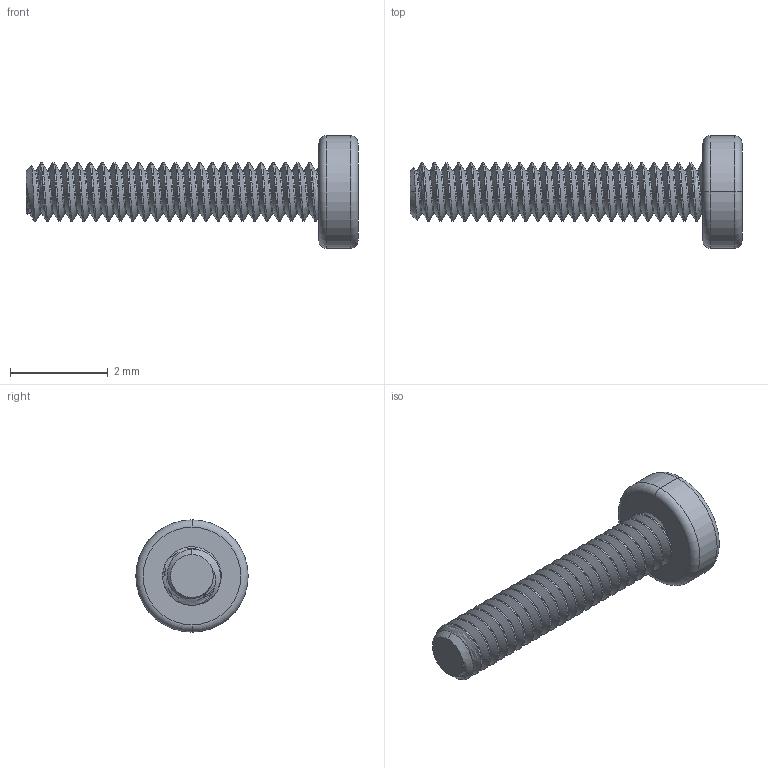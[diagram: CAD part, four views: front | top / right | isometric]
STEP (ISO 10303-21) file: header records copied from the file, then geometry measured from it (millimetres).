
FILE_DESCRIPTION (( 'STEP AP203' ), '1' );
FILE_NAME ('M12-60-M-SS-PT-USMICROSCREW.STEP', '2014-12-30T07:24:07', ( 'Chromium' ), ( 'Microsoft' ), 'SwSTEP 2.0', 'SolidWorks 2014', '' );
FILE_SCHEMA (( 'CONFIG_CONTROL_DESIGN' ));
Length unit declared in the file: millimetre
Products named in the file (1): M12-60-M-SS-PT-USMICROSCREW
Bounding box: 6.8 x 2.3 x 2.3 mm (x, y, z)
Volume: 8 mm3; surface area: 48.9 mm2
Topology: 1 solids, 1 shells, 153 faces, 440 edges, 291 vertices
Faces by surface type: cylinder 138, torus 4, bspline 4, plane 4, cone 3
Entity records: 7049 total; most frequent: CARTESIAN_POINT 3668, ORIENTED_EDGE 880, DIRECTION 540, EDGE_CURVE 440, VERTEX_POINT 291, AXIS2_PLACEMENT_3D 200, EDGE_LOOP 155, ADVANCED_FACE 153
